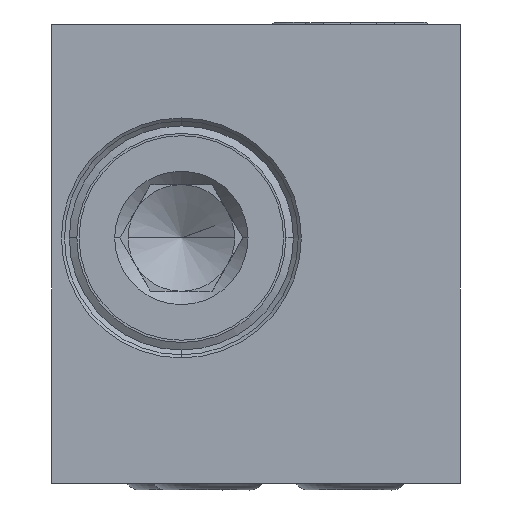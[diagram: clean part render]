
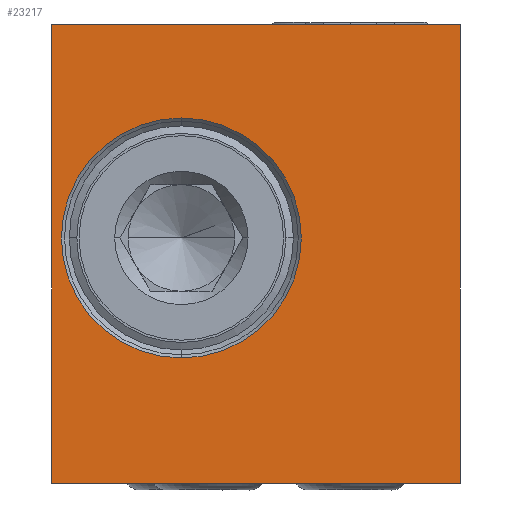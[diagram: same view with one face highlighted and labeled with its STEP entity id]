
A CAD part, left-side view. The second image highlights one B-rep face of the part: STEP entity #23217.
In plain terms, the highlighted planar face has unit normal (-1, 0, 0).
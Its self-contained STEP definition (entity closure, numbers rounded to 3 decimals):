
#4321=DIRECTION('',(0.,0.,1.));
#4322=VECTOR('',#4321,25.8);
#4323=CARTESIAN_POINT('',(-38.,11.5,-12.9));
#4324=LINE('',#4323,#4322);
#4325=DIRECTION('',(0.,-1.,0.));
#4326=VECTOR('',#4325,23.);
#4327=CARTESIAN_POINT('',(-38.,11.5,12.9));
#4328=LINE('',#4327,#4326);
#4329=DIRECTION('',(0.,0.,-1.));
#4330=VECTOR('',#4329,25.8);
#4331=CARTESIAN_POINT('',(-38.,-11.5,12.9));
#4332=LINE('',#4331,#4330);
#4333=DIRECTION('',(0.,1.,0.));
#4334=VECTOR('',#4333,23.);
#4335=CARTESIAN_POINT('',(-38.,-11.5,-12.9));
#4336=LINE('',#4335,#4334);
#4337=CARTESIAN_POINT('',(-38.,4.2,0.9));
#4338=DIRECTION('',(-1.,0.,0.));
#4339=DIRECTION('',(0.,0.,-1.));
#4340=AXIS2_PLACEMENT_3D('',#4337,#4338,#4339);
#4342=CARTESIAN_POINT('',(-38.,4.2,0.9));
#4343=DIRECTION('',(-1.,0.,0.));
#4344=DIRECTION('',(0.,0.,1.));
#4345=AXIS2_PLACEMENT_3D('',#4342,#4343,#4344);
#15871=CARTESIAN_POINT('',(-38.,11.5,12.9));
#15872=VERTEX_POINT('',#15871);
#15873=CARTESIAN_POINT('',(-38.,11.5,-12.9));
#15874=VERTEX_POINT('',#15873);
#15875=CARTESIAN_POINT('',(-38.,-11.5,12.9));
#15876=VERTEX_POINT('',#15875);
#15897=CARTESIAN_POINT('',(-38.,-11.5,-12.9));
#15898=VERTEX_POINT('',#15897);
#15943=CARTESIAN_POINT('',(-38.,4.2,-5.85));
#15944=CARTESIAN_POINT('',(-38.,4.2,7.65));
#15945=VERTEX_POINT('',#15943);
#15946=VERTEX_POINT('',#15944);
#23198=CARTESIAN_POINT('',(-38.,0.,0.));
#23199=DIRECTION('',(-1.,0.,0.));
#23200=DIRECTION('',(0.,-1.,0.));
#23201=AXIS2_PLACEMENT_3D('',#23198,#23199,#23200);
#23202=PLANE('',#23201);
#23203=ORIENTED_EDGE('',*,*,#23191,.T.);
#23204=ORIENTED_EDGE('',*,*,#20819,.T.);
#23206=ORIENTED_EDGE('',*,*,#23205,.T.);
#23208=ORIENTED_EDGE('',*,*,#23207,.T.);
#23209=EDGE_LOOP('',(#23203,#23204,#23206,#23208));
#23210=FACE_OUTER_BOUND('',#23209,.F.);
#23212=ORIENTED_EDGE('',*,*,#23211,.T.);
#23214=ORIENTED_EDGE('',*,*,#23213,.T.);
#23215=EDGE_LOOP('',(#23212,#23214));
#23216=FACE_BOUND('',#23215,.F.);
#23217=ADVANCED_FACE('',(#23210,#23216),#23202,.T.);
#4341=CIRCLE('',#4340,6.75);
#4346=CIRCLE('',#4345,6.75);
#20819=EDGE_CURVE('',#15872,#15876,#4328,.T.);
#23191=EDGE_CURVE('',#15874,#15872,#4324,.T.);
#23205=EDGE_CURVE('',#15876,#15898,#4332,.T.);
#23207=EDGE_CURVE('',#15898,#15874,#4336,.T.);
#23211=EDGE_CURVE('',#15945,#15946,#4341,.T.);
#23213=EDGE_CURVE('',#15946,#15945,#4346,.T.);
